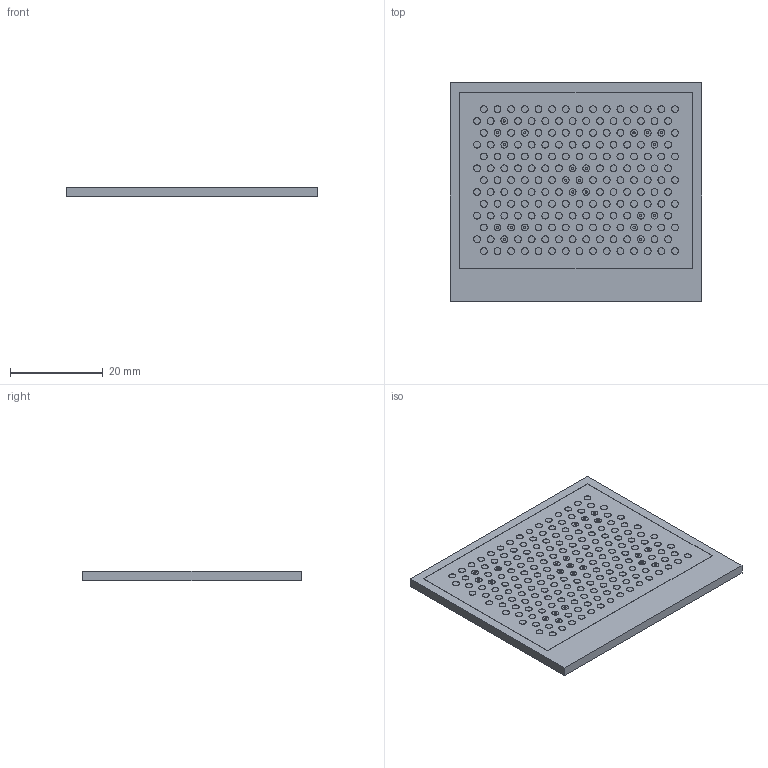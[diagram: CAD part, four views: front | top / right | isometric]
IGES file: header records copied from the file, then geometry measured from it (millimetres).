
Global section: file name: 153-13569_ZCP 50-13x15; native system: Autodesk Inventor 2018; preprocessor: unknown; author: ss; date: 20190321.120011; units: millimetre
Bounding box: 54 x 47 x 2.05 mm (x, y, z)
Volume: 5154.4 mm3; surface area: 5536.1 mm2
Topology: 1 solids, 1 shells, 445 faces, 675 edges, 450 vertices
Faces by surface type: bspline 445
